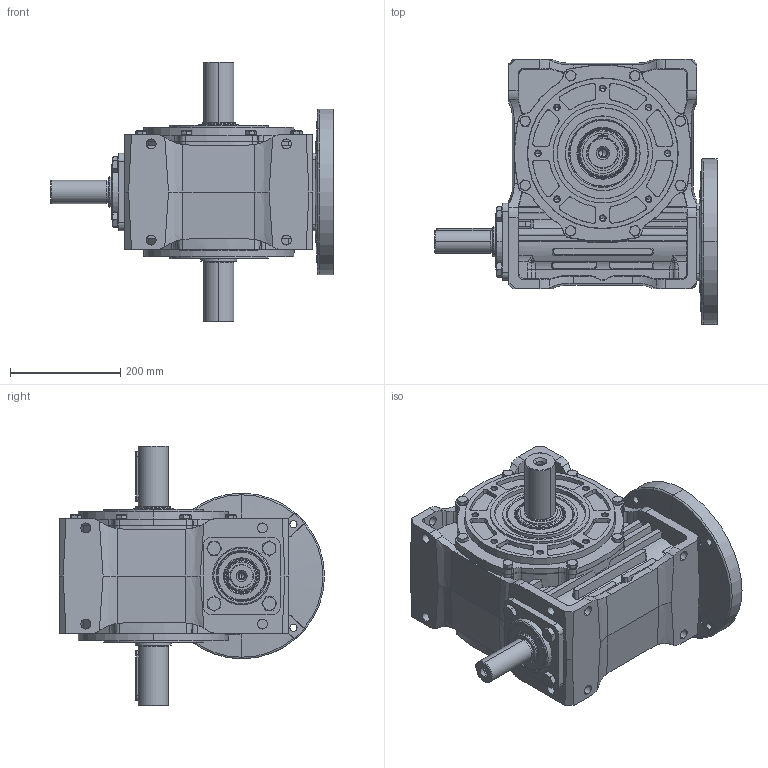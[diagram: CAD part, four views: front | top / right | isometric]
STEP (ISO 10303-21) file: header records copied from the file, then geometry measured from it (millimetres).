
FILE_DESCRIPTION (( 'STEP AP203' ), '1' );
FILE_NAME ('MR-160_300-38-WBS-WD_1-3D.STEP', '2020-03-20T13:48:09', ( '' ), ( '' ), 'SwSTEP 2.0', 'SolidWorks 2013', '' );
FILE_SCHEMA (( 'CONFIG_CONTROL_DESIGN' ));
Length unit declared in the file: millimetre
Products named in the file (14): parallel_din_Parallel key A12 x 8 x 100 DIN 6885; Simmering 70x100x10 RST; hex screw gradeab_iso_ISO 4017 - M16 x 30-N; socket head cap screw_iso_ISO 4762 M16 x 30 --- 30N; MR-160_300-38-WBS-WD_1-3D; parallel_din_Parallel key A16 x 10 x 90 DIN 6885; Wa³ R-160_dwustronny kr¢tki; Podk³adka na wa³ek R-160; circlip for shafts normal_din_Circlip DIN 471 - 55 x 2; MR-160 - do modeli; Pokrywa 166_do nowej wersji; Œlimak R-160_MR.160.03.4.02; Simmering 55x90x10 RST; Ko³nierz 16xx_300 do nowego korpusu
Assembly tree (20 placements, depth 2):
  MR-160_300-38-WBS-WD_1-3D
    MR-160 - do modeli
    Œlimak R-160_MR.160.03.4.02
    Ko³nierz 16xx_300 do nowego korpusu
    Simmering 70x100x10 RST
    socket head cap screw_iso_ISO 4762 M16 x 30 --- 30N  x4
    parallel_din_Parallel key A16 x 10 x 90 DIN 6885  x2
    Wa³ R-160_dwustronny kr¢tki
    Podk³adka na wa³ek R-160
    circlip for shafts normal_din_Circlip DIN 471 - 55 x 2
    Pokrywa 166_do nowej wersji
    Simmering 55x90x10 RST
    parallel_din_Parallel key A12 x 8 x 100 DIN 6885
    hex screw gradeab_iso_ISO 4017 - M16 x 30-N  x4
Bounding box: 511 x 480 x 470 mm (x, y, z)
Volume: 15412254.7 mm3; surface area: 2236722.6 mm2
Topology: 32 solids, 32 shells, 3031 faces, 7368 edges, 4466 vertices
Faces by surface type: plane 906, cone 727, cylinder 688, bspline 485, torus 146, sphere 79
Entity records: 108675 total; most frequent: CARTESIAN_POINT 43794, ORIENTED_EDGE 13816, DIRECTION 12598, EDGE_CURVE 6908, AXIS2_PLACEMENT_3D 5013, VERTEX_POINT 4249, EDGE_LOOP 3081, FACE_OUTER_BOUND 2849
